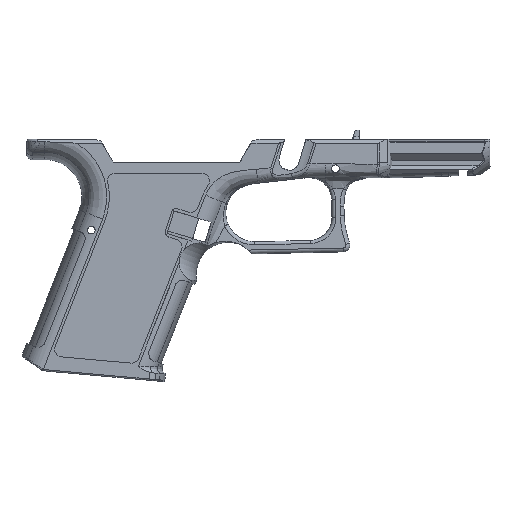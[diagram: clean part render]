
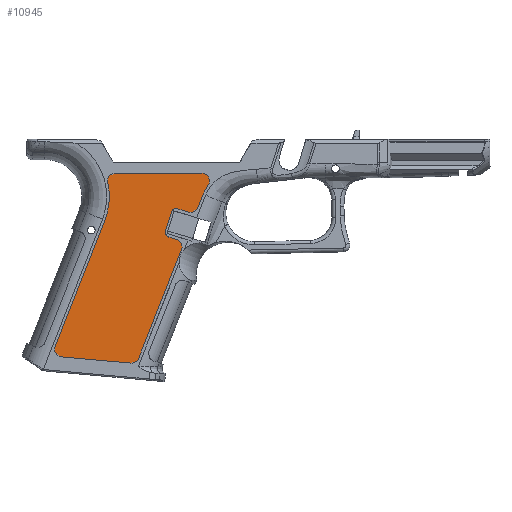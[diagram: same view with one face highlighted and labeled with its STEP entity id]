
A CAD part, front view. The second image highlights one B-rep face of the part: STEP entity #10945.
In plain terms, the highlighted planar face has unit normal (0, -1, 0) as drawn and (0, 0, 1) by its records, which use the part's own axes.
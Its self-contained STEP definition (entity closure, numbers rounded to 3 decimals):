
#532=PLANE('',#11734);
#979=LINE('',#20824,#1666);
#981=LINE('',#20830,#1668);
#982=LINE('',#20832,#1669);
#983=LINE('',#20836,#1670);
#984=LINE('',#20840,#1671);
#985=LINE('',#20844,#1672);
#986=LINE('',#20848,#1673);
#987=LINE('',#20857,#1674);
#988=LINE('',#20863,#1675);
#1666=VECTOR('',#13310,10.);
#1668=VECTOR('',#13316,10.);
#1669=VECTOR('',#13317,10.);
#1670=VECTOR('',#13320,10.);
#1671=VECTOR('',#13323,10.);
#1672=VECTOR('',#13326,10.);
#1673=VECTOR('',#13329,10.);
#1674=VECTOR('',#13332,10.);
#1675=VECTOR('',#13337,10.);
#2369=FACE_OUTER_BOUND('',#2982,.T.);
#2982=EDGE_LOOP('',(#8389,#8390,#8391,#8392,#8393,#8394,#8395,#8396,#8397,
#8398,#8399,#8400,#8401,#8402,#8403,#8404,#8405,#8406,#8407));
#3574=CIRCLE('',#11735,3.);
#3575=CIRCLE('',#11736,3.);
#3576=CIRCLE('',#11737,2.);
#3577=CIRCLE('',#11738,2.);
#3578=CIRCLE('',#11739,3.);
#3579=CIRCLE('',#11740,3.);
#3580=CIRCLE('',#11741,3.);
#3581=CIRCLE('',#11742,25.009);
#3582=CIRCLE('',#11743,3.);
#3912=B_SPLINE_CURVE_WITH_KNOTS('',3,(#20850,#20851,#20852,#20853),
 .UNSPECIFIED.,.F.,.F.,(4,4),(-0.39,0.),.UNSPECIFIED.);
#4807=VERTEX_POINT('',#20821);
#4808=VERTEX_POINT('',#20823);
#4809=VERTEX_POINT('',#20827);
#4810=VERTEX_POINT('',#20829);
#4811=VERTEX_POINT('',#20831);
#4812=VERTEX_POINT('',#20833);
#4813=VERTEX_POINT('',#20835);
#4814=VERTEX_POINT('',#20837);
#4815=VERTEX_POINT('',#20839);
#4816=VERTEX_POINT('',#20841);
#4817=VERTEX_POINT('',#20843);
#4818=VERTEX_POINT('',#20845);
#4819=VERTEX_POINT('',#20847);
#4820=VERTEX_POINT('',#20849);
#4821=VERTEX_POINT('',#20854);
#4822=VERTEX_POINT('',#20856);
#4823=VERTEX_POINT('',#20858);
#4824=VERTEX_POINT('',#20860);
#4825=VERTEX_POINT('',#20862);
#6156=EDGE_CURVE('',#4807,#4808,#979,.F.);
#6158=EDGE_CURVE('',#4809,#4807,#3574,.F.);
#6159=EDGE_CURVE('',#4810,#4809,#981,.F.);
#6160=EDGE_CURVE('',#4811,#4810,#982,.F.);
#6161=EDGE_CURVE('',#4811,#4812,#3575,.T.);
#6162=EDGE_CURVE('',#4813,#4812,#983,.F.);
#6163=EDGE_CURVE('',#4814,#4813,#3576,.T.);
#6164=EDGE_CURVE('',#4815,#4814,#984,.F.);
#6165=EDGE_CURVE('',#4816,#4815,#3577,.T.);
#6166=EDGE_CURVE('',#4817,#4816,#985,.F.);
#6167=EDGE_CURVE('',#4817,#4818,#3578,.T.);
#6168=EDGE_CURVE('',#4819,#4818,#986,.F.);
#6169=EDGE_CURVE('',#4820,#4819,#3912,.F.);
#6170=EDGE_CURVE('',#4821,#4820,#3579,.F.);
#6171=EDGE_CURVE('',#4822,#4821,#987,.F.);
#6172=EDGE_CURVE('',#4823,#4822,#3580,.F.);
#6173=EDGE_CURVE('',#4824,#4823,#3581,.T.);
#6174=EDGE_CURVE('',#4825,#4824,#988,.F.);
#6175=EDGE_CURVE('',#4808,#4825,#3582,.F.);
#8389=ORIENTED_EDGE('',*,*,#6156,.F.);
#8390=ORIENTED_EDGE('',*,*,#6158,.F.);
#8391=ORIENTED_EDGE('',*,*,#6159,.F.);
#8392=ORIENTED_EDGE('',*,*,#6160,.F.);
#8393=ORIENTED_EDGE('',*,*,#6161,.T.);
#8394=ORIENTED_EDGE('',*,*,#6162,.F.);
#8395=ORIENTED_EDGE('',*,*,#6163,.F.);
#8396=ORIENTED_EDGE('',*,*,#6164,.F.);
#8397=ORIENTED_EDGE('',*,*,#6165,.F.);
#8398=ORIENTED_EDGE('',*,*,#6166,.F.);
#8399=ORIENTED_EDGE('',*,*,#6167,.T.);
#8400=ORIENTED_EDGE('',*,*,#6168,.F.);
#8401=ORIENTED_EDGE('',*,*,#6169,.F.);
#8402=ORIENTED_EDGE('',*,*,#6170,.F.);
#8403=ORIENTED_EDGE('',*,*,#6171,.F.);
#8404=ORIENTED_EDGE('',*,*,#6172,.F.);
#8405=ORIENTED_EDGE('',*,*,#6173,.F.);
#8406=ORIENTED_EDGE('',*,*,#6174,.F.);
#8407=ORIENTED_EDGE('',*,*,#6175,.F.);
#10945=ADVANCED_FACE('',(#2369),#532,.T.);
#11734=AXIS2_PLACEMENT_3D('',#20826,#13312,#13313);
#11735=AXIS2_PLACEMENT_3D('',#20828,#13314,#13315);
#11736=AXIS2_PLACEMENT_3D('',#20834,#13318,#13319);
#11737=AXIS2_PLACEMENT_3D('',#20838,#13321,#13322);
#11738=AXIS2_PLACEMENT_3D('',#20842,#13324,#13325);
#11739=AXIS2_PLACEMENT_3D('',#20846,#13327,#13328);
#11740=AXIS2_PLACEMENT_3D('',#20855,#13330,#13331);
#11741=AXIS2_PLACEMENT_3D('',#20859,#13333,#13334);
#11742=AXIS2_PLACEMENT_3D('',#20861,#13335,#13336);
#11743=AXIS2_PLACEMENT_3D('',#20864,#13338,#13339);
#13310=DIRECTION('',(0.996,-0.089,0.));
#13312=DIRECTION('center_axis',(0.,0.,
1.));
#13313=DIRECTION('ref_axis',(-1.,0.,0.));
#13314=DIRECTION('center_axis',(0.,0.,
1.));
#13315=DIRECTION('ref_axis',(-0.089,-0.996,0.));
#13316=DIRECTION('',(0.367,0.93,0.));
#13317=DIRECTION('',(0.366,0.93,0.));
#13318=DIRECTION('center_axis',(0.,0.,
1.));
#13319=DIRECTION('ref_axis',(0.976,-0.218,0.));
#13320=DIRECTION('',(-0.954,0.301,0.));
#13321=DIRECTION('center_axis',(0.,0.,
1.));
#13322=DIRECTION('ref_axis',(-0.887,-0.462,0.));
#13323=DIRECTION('',(0.301,0.954,0.));
#13324=DIRECTION('center_axis',(0.,0.,
1.));
#13325=DIRECTION('ref_axis',(-0.462,0.887,0.));
#13326=DIRECTION('',(0.954,-0.301,0.));
#13327=DIRECTION('center_axis',(0.,0.,
1.));
#13328=DIRECTION('ref_axis',(0.431,-0.903,0.));
#13329=DIRECTION('',(0.367,0.93,0.));
#13330=DIRECTION('center_axis',(0.,0.,
1.));
#13331=DIRECTION('ref_axis',(0.891,0.454,0.));
#13332=DIRECTION('',(-1.,0.,0.));
#13333=DIRECTION('center_axis',(0.,0.,
1.));
#13334=DIRECTION('ref_axis',(0.,1.,0.));
#13335=DIRECTION('center_axis',(0.,0.,
1.));
#13336=DIRECTION('ref_axis',(0.93,-0.367,0.));
#13337=DIRECTION('',(-0.367,-0.93,0.));
#13338=DIRECTION('center_axis',(0.,0.,
1.));
#13339=DIRECTION('ref_axis',(-0.93,0.367,0.));
#20821=CARTESIAN_POINT('',(32.081,-88.907,13.4));
#20823=CARTESIAN_POINT('',(5.216,-86.508,13.4));
#20824=CARTESIAN_POINT('',(30.691,-88.783,13.4));
#20826=CARTESIAN_POINT('Origin',(32.57,-52.056,13.4));
#20827=CARTESIAN_POINT('',(35.139,-87.019,13.4));
#20828=CARTESIAN_POINT('Origin',(32.348,-85.919,13.4));
#20829=CARTESIAN_POINT('',(37.66,-80.618,13.4));
#20830=CARTESIAN_POINT('',(42.188,-69.123,13.4));
#20831=CARTESIAN_POINT('',(51.92,-44.407,13.4));
#20832=CARTESIAN_POINT('',(49.317,-51.017,13.4));
#20833=CARTESIAN_POINT('',(49.894,-40.893,13.4));
#20834=CARTESIAN_POINT('Origin',(48.992,-43.755,13.4));
#20835=CARTESIAN_POINT('',(46.91,-39.953,13.4));
#20836=CARTESIAN_POINT('',(41.17,-38.143,13.4));
#20837=CARTESIAN_POINT('',(45.604,-37.444,13.4));
#20838=CARTESIAN_POINT('Origin',(47.511,-38.045,13.4));
#20839=CARTESIAN_POINT('',(47.867,-30.265,13.4));
#20840=CARTESIAN_POINT('',(44.352,-41.415,13.4));
#20841=CARTESIAN_POINT('',(50.376,-28.959,13.4));
#20842=CARTESIAN_POINT('Origin',(49.775,-30.866,13.4));
#20843=CARTESIAN_POINT('',(54.495,-30.258,13.4));
#20844=CARTESIAN_POINT('',(48.983,-28.52,13.4));
#20845=CARTESIAN_POINT('',(58.188,-28.496,13.4));
#20846=CARTESIAN_POINT('Origin',(55.397,-27.396,13.4));
#20847=CARTESIAN_POINT('',(60.207,-23.369,13.4));
#20848=CARTESIAN_POINT('',(53.46,-40.498,13.4));
#20849=CARTESIAN_POINT('',(62.079,-19.959,13.4));
#20850=CARTESIAN_POINT('Ctrl Pts',(60.207,-23.369,13.4));
#20851=CARTESIAN_POINT('Ctrl Pts',(60.697,-22.126,13.4));
#20852=CARTESIAN_POINT('Ctrl Pts',(61.335,-20.98,13.4));
#20853=CARTESIAN_POINT('Ctrl Pts',(62.079,-19.959,13.4));
#20854=CARTESIAN_POINT('',(59.654,-15.193,13.4));
#20855=CARTESIAN_POINT('Origin',(59.654,-18.193,13.4));
#20856=CARTESIAN_POINT('',(26.093,-15.193,13.4));
#20857=CARTESIAN_POINT('',(29.332,-15.193,13.4));
#20858=CARTESIAN_POINT('',(23.163,-18.838,13.4));
#20859=CARTESIAN_POINT('Origin',(26.093,-18.193,13.4));
#20860=CARTESIAN_POINT('',(22.008,-33.382,13.4));
#20861=CARTESIAN_POINT('Origin',(-1.261,-24.216,13.4));
#20862=CARTESIAN_POINT('',(2.691,-82.421,13.4));
#20863=CARTESIAN_POINT('',(9.875,-64.183,13.4));
#20864=CARTESIAN_POINT('Origin',(5.483,-83.52,13.4));
